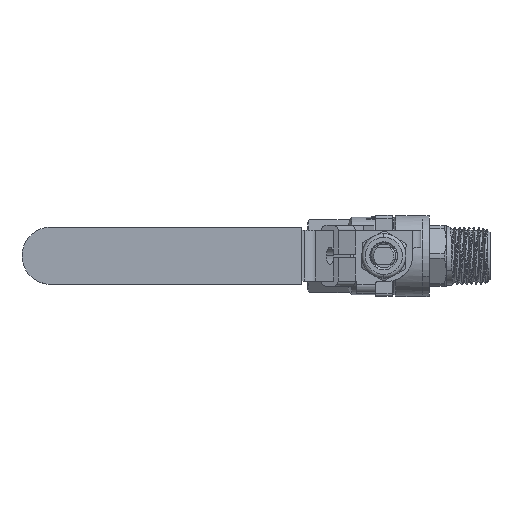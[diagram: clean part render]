
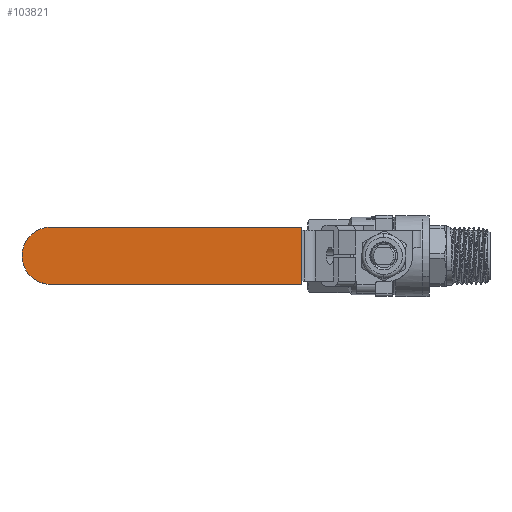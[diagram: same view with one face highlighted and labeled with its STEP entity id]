
A CAD part, top view. The second image highlights one B-rep face of the part: STEP entity #103821.
In plain terms, the highlighted planar face has unit normal (0, 0, 1).
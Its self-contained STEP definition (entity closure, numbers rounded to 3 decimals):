
#100905 = PLANE('',#100906);
#100906 = AXIS2_PLACEMENT_3D('',#100907,#100908,#100909);
#100907 = CARTESIAN_POINT('',(-24.35,14.8,48.277));
#100908 = DIRECTION('',(-1.,0.,0.));
#100909 = DIRECTION('',(0.,-1.,0.));
#103597 = VERTEX_POINT('',#103598);
#103598 = CARTESIAN_POINT('',(-24.35,-2.2,48.277));
#103614 = PLANE('',#103615);
#103615 = AXIS2_PLACEMENT_3D('',#103616,#103617,#103618);
#103616 = CARTESIAN_POINT('',(0.,-2.2,21.9)
  );
#103617 = DIRECTION('',(0.,1.,0.));
#103618 = DIRECTION('',(-1.,0.,0.));
#103655 = VERTEX_POINT('',#103656);
#103656 = CARTESIAN_POINT('',(-24.35,14.8,48.277));
#103670 = PLANE('',#103671);
#103671 = AXIS2_PLACEMENT_3D('',#103672,#103673,#103674);
#103672 = CARTESIAN_POINT('',(0.,14.8,21.9));
#103673 = DIRECTION('',(0.,1.,0.));
#103674 = DIRECTION('',(-1.,0.,0.));
#103682 = EDGE_CURVE('',#103655,#103597,#103683,.T.);
#103683 = SURFACE_CURVE('',#103684,(#103688,#103695),.PCURVE_S1.);
#103684 = LINE('',#103685,#103686);
#103685 = CARTESIAN_POINT('',(-24.35,14.8,48.277));
#103686 = VECTOR('',#103687,1.);
#103687 = DIRECTION('',(0.,-1.,0.));
#103688 = PCURVE('',#100905,#103689);
#103689 = DEFINITIONAL_REPRESENTATION('',(#103690),#103694);
#103690 = LINE('',#103691,#103692);
#103691 = CARTESIAN_POINT('',(-0.,0.));
#103692 = VECTOR('',#103693,1.);
#103693 = DIRECTION('',(1.,0.));
#103694 = ( GEOMETRIC_REPRESENTATION_CONTEXT(2) 
PARAMETRIC_REPRESENTATION_CONTEXT() REPRESENTATION_CONTEXT('2D SPACE',''
  ) );
#103695 = PCURVE('',#103696,#103701);
#103696 = PLANE('',#103697);
#103697 = AXIS2_PLACEMENT_3D('',#103698,#103699,#103700);
#103698 = CARTESIAN_POINT('',(-24.35,14.8,48.277));
#103699 = DIRECTION('',(0.,0.,-1.));
#103700 = DIRECTION('',(0.,-1.,0.));
#103701 = DEFINITIONAL_REPRESENTATION('',(#103702),#103706);
#103702 = LINE('',#103703,#103704);
#103703 = CARTESIAN_POINT('',(-0.,0.));
#103704 = VECTOR('',#103705,1.);
#103705 = DIRECTION('',(1.,0.));
#103706 = ( GEOMETRIC_REPRESENTATION_CONTEXT(2) 
PARAMETRIC_REPRESENTATION_CONTEXT() REPRESENTATION_CONTEXT('2D SPACE',''
  ) );
#103755 = CYLINDRICAL_SURFACE('',#103756,8.5);
#103756 = AXIS2_PLACEMENT_3D('',#103757,#103758,#103759);
#103757 = CARTESIAN_POINT('',(-98.833,6.3,48.277));
#103758 = DIRECTION('',(0.,0.,1.));
#103759 = DIRECTION('',(0.,1.,0.));
#103788 = CYLINDRICAL_SURFACE('',#103789,8.5);
#103789 = AXIS2_PLACEMENT_3D('',#103790,#103791,#103792);
#103790 = CARTESIAN_POINT('',(-98.833,6.3,21.9));
#103791 = DIRECTION('',(0.,0.,-1.));
#103792 = DIRECTION('',(0.,-1.,0.));
#103821 = ADVANCED_FACE('',(#103822),#103696,.F.);
#103822 = FACE_BOUND('',#103823,.T.);
#103823 = EDGE_LOOP('',(#103824,#103854,#103882,#103903,#103904));
#103824 = ORIENTED_EDGE('',*,*,#103825,.T.);
#103825 = EDGE_CURVE('',#103826,#103828,#103830,.T.);
#103826 = VERTEX_POINT('',#103827);
#103827 = CARTESIAN_POINT('',(-98.833,14.8,48.277));
#103828 = VERTEX_POINT('',#103829);
#103829 = CARTESIAN_POINT('',(-107.333,6.3,48.277));
#103830 = SURFACE_CURVE('',#103831,(#103836,#103847),.PCURVE_S1.);
#103831 = CIRCLE('',#103832,8.5);
#103832 = AXIS2_PLACEMENT_3D('',#103833,#103834,#103835);
#103833 = CARTESIAN_POINT('',(-98.833,6.3,48.277));
#103834 = DIRECTION('',(0.,0.,1.));
#103835 = DIRECTION('',(0.,-1.,0.));
#103836 = PCURVE('',#103696,#103837);
#103837 = DEFINITIONAL_REPRESENTATION('',(#103838),#103846);
#103838 = ( BOUNDED_CURVE() B_SPLINE_CURVE(2,(#103839,#103840,#103841,
    #103842,#103843,#103844,#103845),.UNSPECIFIED.,.T.,.F.) 
B_SPLINE_CURVE_WITH_KNOTS((1,2,2,2,2,1),(-2.094,0.,
    2.094,4.189,6.283,8.378),
.UNSPECIFIED.) CURVE() GEOMETRIC_REPRESENTATION_ITEM() 
RATIONAL_B_SPLINE_CURVE((1.,0.5,1.,0.5,1.,0.5,1.)) REPRESENTATION_ITEM(
  '') );
#103839 = CARTESIAN_POINT('',(17.,74.483));
#103840 = CARTESIAN_POINT('',(17.,59.761));
#103841 = CARTESIAN_POINT('',(4.25,67.122));
#103842 = CARTESIAN_POINT('',(-8.5,74.483));
#103843 = CARTESIAN_POINT('',(4.25,81.845));
#103844 = CARTESIAN_POINT('',(17.,89.206));
#103845 = CARTESIAN_POINT('',(17.,74.483));
#103846 = ( GEOMETRIC_REPRESENTATION_CONTEXT(2) 
PARAMETRIC_REPRESENTATION_CONTEXT() REPRESENTATION_CONTEXT('2D SPACE',''
  ) );
#103847 = PCURVE('',#103788,#103848);
#103848 = DEFINITIONAL_REPRESENTATION('',(#103849),#103853);
#103849 = LINE('',#103850,#103851);
#103850 = CARTESIAN_POINT('',(6.283,-26.377));
#103851 = VECTOR('',#103852,1.);
#103852 = DIRECTION('',(-1.,0.));
#103853 = ( GEOMETRIC_REPRESENTATION_CONTEXT(2) 
PARAMETRIC_REPRESENTATION_CONTEXT() REPRESENTATION_CONTEXT('2D SPACE',''
  ) );
#103854 = ORIENTED_EDGE('',*,*,#103855,.T.);
#103855 = EDGE_CURVE('',#103828,#103856,#103858,.T.);
#103856 = VERTEX_POINT('',#103857);
#103857 = CARTESIAN_POINT('',(-98.833,-2.2,48.277));
#103858 = SURFACE_CURVE('',#103859,(#103864,#103875),.PCURVE_S1.);
#103859 = CIRCLE('',#103860,8.5);
#103860 = AXIS2_PLACEMENT_3D('',#103861,#103862,#103863);
#103861 = CARTESIAN_POINT('',(-98.833,6.3,48.277));
#103862 = DIRECTION('',(0.,0.,1.));
#103863 = DIRECTION('',(0.,-1.,0.));
#103864 = PCURVE('',#103696,#103865);
#103865 = DEFINITIONAL_REPRESENTATION('',(#103866),#103874);
#103866 = ( BOUNDED_CURVE() B_SPLINE_CURVE(2,(#103867,#103868,#103869,
    #103870,#103871,#103872,#103873),.UNSPECIFIED.,.T.,.F.) 
B_SPLINE_CURVE_WITH_KNOTS((1,2,2,2,2,1),(-2.094,0.,
    2.094,4.189,6.283,8.378),
.UNSPECIFIED.) CURVE() GEOMETRIC_REPRESENTATION_ITEM() 
RATIONAL_B_SPLINE_CURVE((1.,0.5,1.,0.5,1.,0.5,1.)) REPRESENTATION_ITEM(
  '') );
#103867 = CARTESIAN_POINT('',(17.,74.483));
#103868 = CARTESIAN_POINT('',(17.,59.761));
#103869 = CARTESIAN_POINT('',(4.25,67.122));
#103870 = CARTESIAN_POINT('',(-8.5,74.483));
#103871 = CARTESIAN_POINT('',(4.25,81.845));
#103872 = CARTESIAN_POINT('',(17.,89.206));
#103873 = CARTESIAN_POINT('',(17.,74.483));
#103874 = ( GEOMETRIC_REPRESENTATION_CONTEXT(2) 
PARAMETRIC_REPRESENTATION_CONTEXT() REPRESENTATION_CONTEXT('2D SPACE',''
  ) );
#103875 = PCURVE('',#103755,#103876);
#103876 = DEFINITIONAL_REPRESENTATION('',(#103877),#103881);
#103877 = LINE('',#103878,#103879);
#103878 = CARTESIAN_POINT('',(-3.142,0.));
#103879 = VECTOR('',#103880,1.);
#103880 = DIRECTION('',(1.,0.));
#103881 = ( GEOMETRIC_REPRESENTATION_CONTEXT(2) 
PARAMETRIC_REPRESENTATION_CONTEXT() REPRESENTATION_CONTEXT('2D SPACE',''
  ) );
#103882 = ORIENTED_EDGE('',*,*,#103883,.T.);
#103883 = EDGE_CURVE('',#103856,#103597,#103884,.T.);
#103884 = SURFACE_CURVE('',#103885,(#103889,#103896),.PCURVE_S1.);
#103885 = LINE('',#103886,#103887);
#103886 = CARTESIAN_POINT('',(-24.35,-2.2,48.277));
#103887 = VECTOR('',#103888,1.);
#103888 = DIRECTION('',(1.,0.,0.));
#103889 = PCURVE('',#103696,#103890);
#103890 = DEFINITIONAL_REPRESENTATION('',(#103891),#103895);
#103891 = LINE('',#103892,#103893);
#103892 = CARTESIAN_POINT('',(17.,0.));
#103893 = VECTOR('',#103894,1.);
#103894 = DIRECTION('',(0.,-1.));
#103895 = ( GEOMETRIC_REPRESENTATION_CONTEXT(2) 
PARAMETRIC_REPRESENTATION_CONTEXT() REPRESENTATION_CONTEXT('2D SPACE',''
  ) );
#103896 = PCURVE('',#103614,#103897);
#103897 = DEFINITIONAL_REPRESENTATION('',(#103898),#103902);
#103898 = LINE('',#103899,#103900);
#103899 = CARTESIAN_POINT('',(24.35,26.377));
#103900 = VECTOR('',#103901,1.);
#103901 = DIRECTION('',(-1.,0.));
#103902 = ( GEOMETRIC_REPRESENTATION_CONTEXT(2) 
PARAMETRIC_REPRESENTATION_CONTEXT() REPRESENTATION_CONTEXT('2D SPACE',''
  ) );
#103903 = ORIENTED_EDGE('',*,*,#103682,.F.);
#103904 = ORIENTED_EDGE('',*,*,#103905,.F.);
#103905 = EDGE_CURVE('',#103826,#103655,#103906,.T.);
#103906 = SURFACE_CURVE('',#103907,(#103911,#103918),.PCURVE_S1.);
#103907 = LINE('',#103908,#103909);
#103908 = CARTESIAN_POINT('',(-24.35,14.8,48.277));
#103909 = VECTOR('',#103910,1.);
#103910 = DIRECTION('',(1.,0.,0.));
#103911 = PCURVE('',#103696,#103912);
#103912 = DEFINITIONAL_REPRESENTATION('',(#103913),#103917);
#103913 = LINE('',#103914,#103915);
#103914 = CARTESIAN_POINT('',(-0.,0.));
#103915 = VECTOR('',#103916,1.);
#103916 = DIRECTION('',(0.,-1.));
#103917 = ( GEOMETRIC_REPRESENTATION_CONTEXT(2) 
PARAMETRIC_REPRESENTATION_CONTEXT() REPRESENTATION_CONTEXT('2D SPACE',''
  ) );
#103918 = PCURVE('',#103670,#103919);
#103919 = DEFINITIONAL_REPRESENTATION('',(#103920),#103924);
#103920 = LINE('',#103921,#103922);
#103921 = CARTESIAN_POINT('',(24.35,26.377));
#103922 = VECTOR('',#103923,1.);
#103923 = DIRECTION('',(-1.,0.));
#103924 = ( GEOMETRIC_REPRESENTATION_CONTEXT(2) 
PARAMETRIC_REPRESENTATION_CONTEXT() REPRESENTATION_CONTEXT('2D SPACE',''
  ) );
